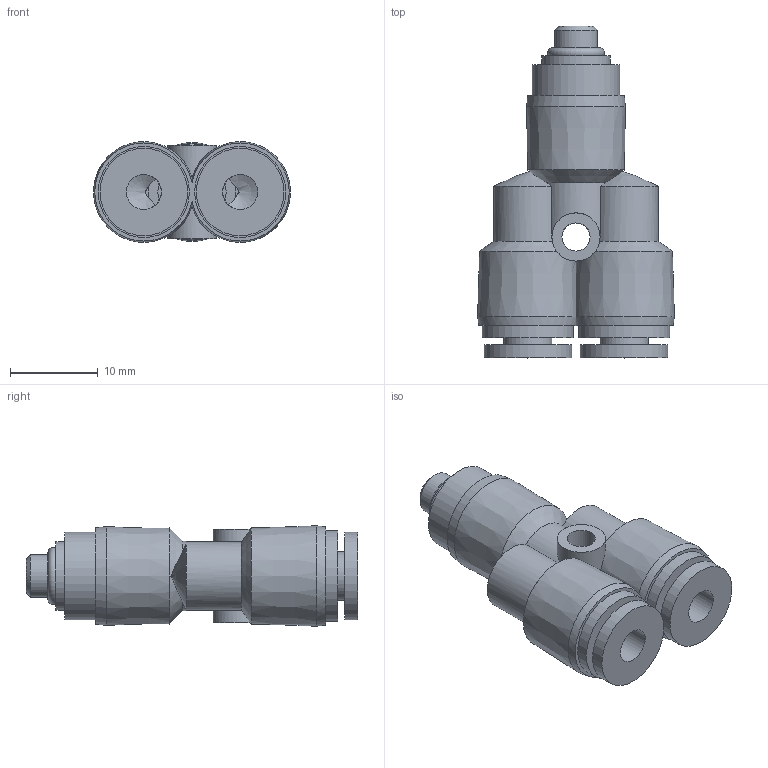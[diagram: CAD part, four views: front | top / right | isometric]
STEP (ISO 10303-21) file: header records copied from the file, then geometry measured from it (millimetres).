
FILE_DESCRIPTION(/* description */ (''),/* implementation_level */ '2;1');
FILE_NAME(/* name */ 'S:\_Tecnico\ArchivioUT\_Disegni3D ingombri\DISEGNI 3D per ingombri\RP\RP 74\RP74M504.stp',/* time_stamp */ '2019-09-05T16:47:15+02:00',/* author */ ('ufficiotecnico3'),/* organization */ (''),/* preprocessor_version */ 'ST-DEVELOPER v18',/* originating_system */ 'Autodesk Inventor 2020',/* authorisation */ '');
FILE_SCHEMA (('AUTOMOTIVE_DESIGN { 1 0 10303 214 3 1 1 }'));
Length unit declared in the file: millimetre
Products named in the file (1): RP74M504
Bounding box: 22.46 x 37.9 x 11.47 mm (x, y, z)
Volume: 3839.1 mm3; surface area: 3208.4 mm2
Topology: 1 solids, 2 shells, 62 faces, 175 edges, 122 vertices
Faces by surface type: cylinder 23, plane 23, cone 14, torus 2
Full cylindrical faces by diameter (mm): 2.4 x1, 3.2 x1, 4 x2, 4.2 x2, 4.9 x1, 5.4 x1, 5.5 x4, 7.8 x1, 10 x3, 10.4 x2
Entity records: 2444 total; most frequent: CARTESIAN_POINT 750, DIRECTION 353, ORIENTED_EDGE 342, EDGE_CURVE 171, AXIS2_PLACEMENT_3D 157, VERTEX_POINT 122, CIRCLE 94, EDGE_LOOP 79
